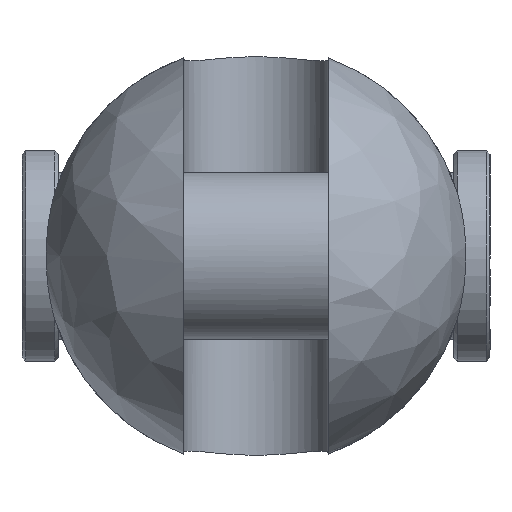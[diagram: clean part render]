
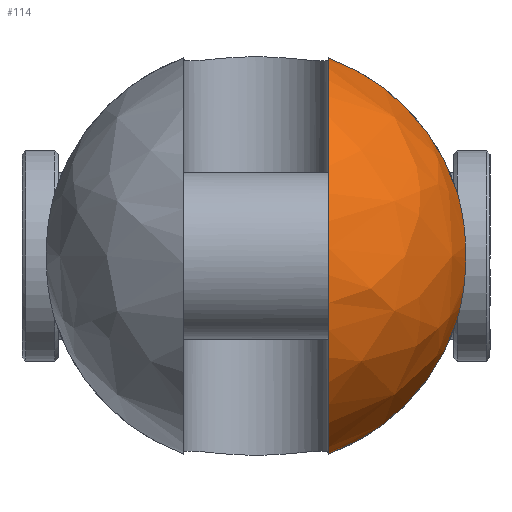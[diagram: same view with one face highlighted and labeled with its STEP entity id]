
A CAD part, left-side view. The second image highlights one B-rep face of the part: STEP entity #114.
In plain terms, the highlighted free-form (B-spline) face has degree [2, 2] with [9, 5] control points.
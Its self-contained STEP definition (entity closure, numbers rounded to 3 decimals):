
#114=ADVANCED_FACE('',(#202),#1535,.T.);
#202=FACE_OUTER_BOUND('',#302,.T.);
#302=EDGE_LOOP('',(#746,#747,#748,#749));
#746=ORIENTED_EDGE('',*,*,#1002,.T.);
#747=ORIENTED_EDGE('',*,*,#999,.F.);
#748=ORIENTED_EDGE('',*,*,#1017,.T.);
#749=ORIENTED_EDGE('',*,*,#993,.F.);
#993=EDGE_CURVE('',#1425,#1426,#1256,.T.);
#999=EDGE_CURVE('',#1433,#1434,#1257,.T.);
#1002=EDGE_CURVE('',#1425,#1434,#1259,.T.);
#1017=EDGE_CURVE('',#1433,#1426,#1126,.T.);
#1126=B_SPLINE_CURVE_WITH_KNOTS('',3,(#3564,#3565,#3566,#3567,#3568,#3569,
#3570,#3571,#3572,#3573,#3574,#3575,#3576,#3577),.UNSPECIFIED.,.F.,.F.,
(4,2,2,2,2,2,4),(0.,2.032,5.991,9.951,
13.91,17.869,19.901),.UNSPECIFIED.);
#1256=(
BOUNDED_CURVE()
B_SPLINE_CURVE(2,(#3470,#3471,#3472),.UNSPECIFIED.,.F.,.F.)
B_SPLINE_CURVE_WITH_KNOTS((3,3),(0.,26.018),.UNSPECIFIED.)
CURVE()
GEOMETRIC_REPRESENTATION_ITEM()
RATIONAL_B_SPLINE_CURVE((1.,0.901,1.))
REPRESENTATION_ITEM('')
);
#1257=(
BOUNDED_CURVE()
B_SPLINE_CURVE(2,(#3499,#3500,#3501),.UNSPECIFIED.,.F.,.F.)
B_SPLINE_CURVE_WITH_KNOTS((3,3),(0.,26.018),.UNSPECIFIED.)
CURVE()
GEOMETRIC_REPRESENTATION_ITEM()
RATIONAL_B_SPLINE_CURVE((1.,0.901,1.))
REPRESENTATION_ITEM('')
);
#1259=(
BOUNDED_CURVE()
B_SPLINE_CURVE(2,(#3507,#3508,#3509,#3510,#3511),.UNSPECIFIED.,.F.,.F.)
B_SPLINE_CURVE_WITH_KNOTS((3,2,3),(-85.518,-42.759,
0.),.UNSPECIFIED.)
CURVE()
GEOMETRIC_REPRESENTATION_ITEM()
RATIONAL_B_SPLINE_CURVE((1.,0.707,1.,0.707,1.))
REPRESENTATION_ITEM('')
);
#1425=VERTEX_POINT('',#3302);
#1426=VERTEX_POINT('',#3303);
#1433=VERTEX_POINT('',#3310);
#1434=VERTEX_POINT('',#3311);
#1535=(
BOUNDED_SURFACE()
B_SPLINE_SURFACE(2,2,((#3174,#3175,#3176,#3177,#3178),(#3179,#3180,#3181,
#3182,#3183),(#3184,#3185,#3186,#3187,#3188),(#3189,#3190,#3191,#3192,#3193),
(#3194,#3195,#3196,#3197,#3198),(#3199,#3200,#3201,#3202,#3203),(#3204,
#3205,#3206,#3207,#3208),(#3209,#3210,#3211,#3212,#3213),(#3214,#3215,#3216,
#3217,#3218)),.UNSPECIFIED.,.T.,.F.,.F.)
B_SPLINE_SURFACE_WITH_KNOTS((3,2,2,2,3),(3,2,3),(0.,45.553,91.106,
136.659,182.212),(0.,45.553,91.106),
 .UNSPECIFIED.)
GEOMETRIC_REPRESENTATION_ITEM()
RATIONAL_B_SPLINE_SURFACE(((1.,0.707,1.,0.707,1.),
(0.707,0.5,0.707,0.5,0.707),(1.,0.707,
1.,0.707,1.),(0.707,0.5,0.707,0.5,0.707),
(1.,0.707,1.,0.707,1.),(0.707,0.5,0.707,
0.5,0.707),(1.,0.707,1.,0.707,1.),(0.707,
0.5,0.707,0.5,0.707),(1.,0.707,1.,0.707,
1.)))
REPRESENTATION_ITEM('')
SURFACE()
);
#3174=CARTESIAN_POINT('',(-41.5,0.,0.));
#3175=CARTESIAN_POINT('',(-41.5,29.,0.));
#3176=CARTESIAN_POINT('',(-12.5,29.,0.));
#3177=CARTESIAN_POINT('',(16.5,29.,0.));
#3178=CARTESIAN_POINT('',(16.5,0.,0.));
#3179=CARTESIAN_POINT('',(-41.5,0.,0.));
#3180=CARTESIAN_POINT('',(-41.5,29.,29.));
#3181=CARTESIAN_POINT('',(-12.5,29.,29.));
#3182=CARTESIAN_POINT('',(16.5,29.,29.));
#3183=CARTESIAN_POINT('',(16.5,0.,0.));
#3184=CARTESIAN_POINT('',(-41.5,0.,0.));
#3185=CARTESIAN_POINT('',(-41.5,0.,29.));
#3186=CARTESIAN_POINT('',(-12.5,0.,29.));
#3187=CARTESIAN_POINT('',(16.5,0.,29.));
#3188=CARTESIAN_POINT('',(16.5,0.,0.));
#3189=CARTESIAN_POINT('',(-41.5,0.,0.));
#3190=CARTESIAN_POINT('',(-41.5,-29.,29.));
#3191=CARTESIAN_POINT('',(-12.5,-29.,29.));
#3192=CARTESIAN_POINT('',(16.5,-29.,29.));
#3193=CARTESIAN_POINT('',(16.5,0.,0.));
#3194=CARTESIAN_POINT('',(-41.5,0.,0.));
#3195=CARTESIAN_POINT('',(-41.5,-29.,0.));
#3196=CARTESIAN_POINT('',(-12.5,-29.,0.));
#3197=CARTESIAN_POINT('',(16.5,-29.,0.));
#3198=CARTESIAN_POINT('',(16.5,0.,0.));
#3199=CARTESIAN_POINT('',(-41.5,0.,0.));
#3200=CARTESIAN_POINT('',(-41.5,-29.,-29.));
#3201=CARTESIAN_POINT('',(-12.5,-29.,-29.));
#3202=CARTESIAN_POINT('',(16.5,-29.,-29.));
#3203=CARTESIAN_POINT('',(16.5,0.,0.));
#3204=CARTESIAN_POINT('',(-41.5,0.,0.));
#3205=CARTESIAN_POINT('',(-41.5,0.,-29.));
#3206=CARTESIAN_POINT('',(-12.5,0.,-29.));
#3207=CARTESIAN_POINT('',(16.5,0.,-29.));
#3208=CARTESIAN_POINT('',(16.5,0.,0.));
#3209=CARTESIAN_POINT('',(-41.5,0.,0.));
#3210=CARTESIAN_POINT('',(-41.5,29.,-29.));
#3211=CARTESIAN_POINT('',(-12.5,29.,-29.));
#3212=CARTESIAN_POINT('',(16.5,29.,-29.));
#3213=CARTESIAN_POINT('',(16.5,0.,0.));
#3214=CARTESIAN_POINT('',(-41.5,0.,0.));
#3215=CARTESIAN_POINT('',(-41.5,29.,0.));
#3216=CARTESIAN_POINT('',(-12.5,29.,0.));
#3217=CARTESIAN_POINT('',(16.5,29.,0.));
#3218=CARTESIAN_POINT('',(16.5,0.,0.));
#3302=CARTESIAN_POINT('',(-12.5,-10.,27.221));
#3303=CARTESIAN_POINT('',(-12.5,-27.514,9.165));
#3310=CARTESIAN_POINT('',(-12.5,-27.514,-9.165));
#3311=CARTESIAN_POINT('',(-12.5,-10.,-27.221));
#3470=CARTESIAN_POINT('',(-12.5,-10.,27.221));
#3471=CARTESIAN_POINT('',(-12.5,-23.102,22.408));
#3472=CARTESIAN_POINT('',(-12.5,-27.514,9.165));
#3499=CARTESIAN_POINT('',(-12.5,-27.514,-9.165));
#3500=CARTESIAN_POINT('',(-12.5,-23.102,-22.408));
#3501=CARTESIAN_POINT('',(-12.5,-10.,-27.221));
#3507=CARTESIAN_POINT('',(-12.5,-10.,27.221));
#3508=CARTESIAN_POINT('',(-39.721,-10.,27.221));
#3509=CARTESIAN_POINT('',(-39.721,-10.,0.));
#3510=CARTESIAN_POINT('',(-39.721,-10.,-27.221));
#3511=CARTESIAN_POINT('',(-12.5,-10.,-27.221));
#3564=CARTESIAN_POINT('',(-12.5,-27.514,-9.165));
#3565=CARTESIAN_POINT('',(-12.889,-27.69,-8.634));
#3566=CARTESIAN_POINT('',(-13.239,-27.848,-8.085));
#3567=CARTESIAN_POINT('',(-14.14,-28.25,-6.466));
#3568=CARTESIAN_POINT('',(-14.658,-28.477,-5.217));
#3569=CARTESIAN_POINT('',(-15.338,-28.774,-2.611));
#3570=CARTESIAN_POINT('',(-15.5,-28.844,-1.253));
#3571=CARTESIAN_POINT('',(-15.5,-28.844,1.253));
#3572=CARTESIAN_POINT('',(-15.338,-28.774,2.611));
#3573=CARTESIAN_POINT('',(-14.658,-28.477,5.217));
#3574=CARTESIAN_POINT('',(-14.14,-28.25,6.466));
#3575=CARTESIAN_POINT('',(-13.239,-27.848,8.085));
#3576=CARTESIAN_POINT('',(-12.889,-27.69,8.634));
#3577=CARTESIAN_POINT('',(-12.5,-27.514,9.165));
